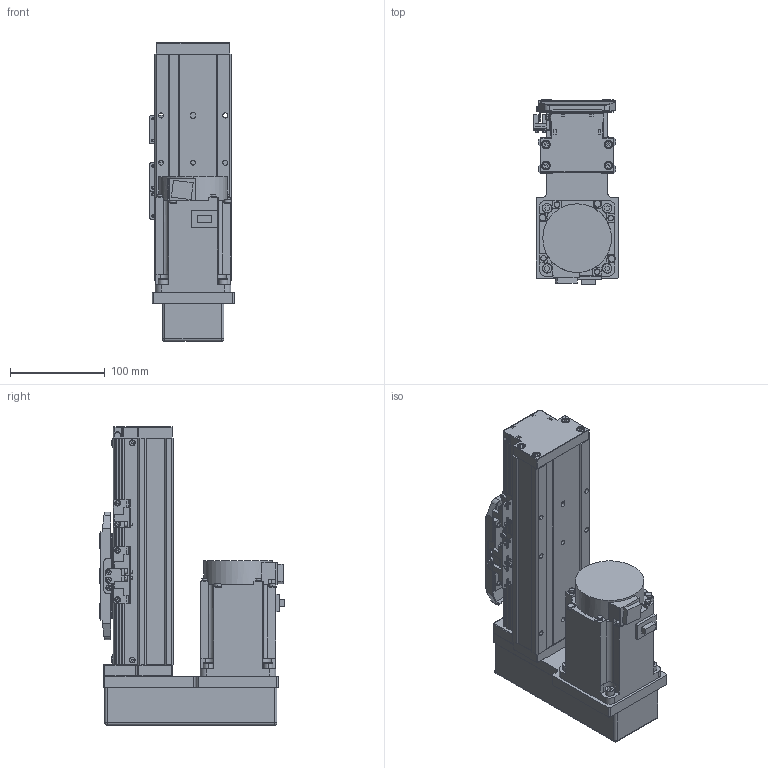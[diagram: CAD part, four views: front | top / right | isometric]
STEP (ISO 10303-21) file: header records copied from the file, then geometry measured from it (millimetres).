
FILE_DESCRIPTION (( 'STEP AP203' ), '1' );
FILE_NAME ('GTH8-50-BM-M75-C4.step', '2023-02-14T02:28:42', ( '微软用户' ), ( '微软中国' ), 'SwSTEP 2.0', 'SolidWorks 2020', '' );
FILE_SCHEMA (( 'CONFIG_CONTROL_DESIGN' ));
Length unit declared in the file: millimetre
Products named in the file (18): GTH80-003; GBT 70.1-M4×16; CTHA86-035; GTH80-004; GTH80-028; hg-kn73j_-s100; GTH80-006; GTH50-024; GTH8-50-BM-M75-C4; GTH80-013; GTH50-023; GBT 70.3-M3℅6; GBT96.1-2002 3×0.8; GTH80-022; BTH-M3X5X6; GTH80-001_50; GBT 70.1-M3℅6; CTHA86-015-3_CTHA86-015-4
Assembly tree (57 placements, depth 2):
  GTH8-50-BM-M75-C4
    GTH80-001_50
    GTH80-003
    GTH80-004
    GTH80-006
    GTH80-013
    GBT 70.3-M3℅6  x4
    GTH80-022
    GBT 70.1-M3℅6  x14
    GBT 70.1-M4×16  x8
    GTH80-028  x2
    GTH50-024  x3
    GTH50-023  x3
    GBT96.1-2002 3×0.8  x6
    BTH-M3X5X6  x8
    CTHA86-015-3_CTHA86-015-4
    CTHA86-035
    hg-kn73j_-s100
Bounding box: 89.4 x 195.3 x 316 mm (x, y, z)
Volume: 2587891.8 mm3; surface area: 321684.2 mm2
Topology: 59 solids, 59 shells, 2175 faces, 5034 edges, 3080 vertices
Faces by surface type: plane 1153, cylinder 607, cone 243, torus 158, sphere 12, bspline 2
Entity records: 38848 total; most frequent: CARTESIAN_POINT 6527, DIRECTION 6389, ORIENTED_EDGE 5878, EDGE_CURVE 2939, AXIS2_PLACEMENT_3D 2242, VECTOR 1905, LINE 1905, VERTEX_POINT 1855
